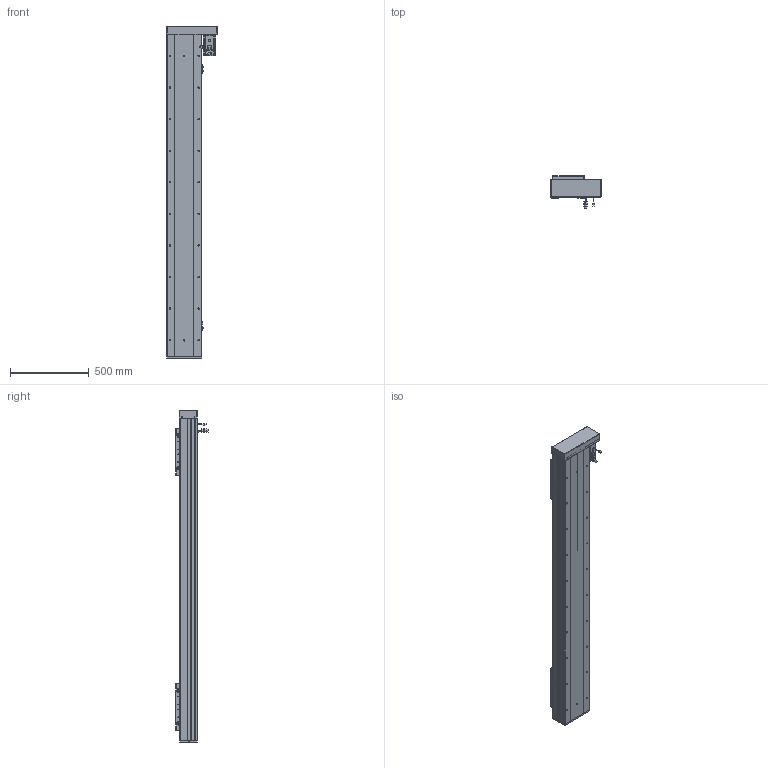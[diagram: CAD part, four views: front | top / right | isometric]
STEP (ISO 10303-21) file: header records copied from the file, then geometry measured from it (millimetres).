
FILE_DESCRIPTION (( 'STEP AP203' ), '1' );
FILE_NAME ('RY220F-L2525-800-RK-邧嶺.SLDASM_1600.step', '2022-08-06T08:19:41', ( '' ), ( '' ), 'SwSTEP 2.0', 'SolidWorks 2016', '' );
FILE_SCHEMA (( 'CONFIG_CONTROL_DESIGN' ));
Length unit declared in the file: millimetre
Products named in the file (15): RY220F-蛌殏奻裔啣-800_1600; RY220F-L2525-800-RK-邧嶺.SLDASM_1600; 覜茼ん672; 怢湛750W_ECMA-CX0807ES; RY220F-祥凄詩湍-蛌殏-800_1600; RY220F-672覜茼んえ; RY220F-滅鳥奻裔; RY220左右折电机安装板; 滅袉蝶18-24; RY220酘衵殏萇儂欶; RY220F-詩湍揤踡輸; RY220F臏賑釱25-32佪裝; 侐源滅袉蝶; RY220F蛌殏菁釱-800-邧嶺_1600; RY220F綴裔啣
Assembly tree (24 placements, depth 2):
  RY220F-L2525-800-RK-邧嶺.SLDASM_1600
    RY220F蛌殏菁釱-800-邧嶺_1600
    RY220F-蛌殏奻裔啣-800_1600  x2
    怢湛750W_ECMA-CX0807ES
    RY220F臏賑釱25-32佪裝  x2
    RY220F-滅鳥奻裔  x2
    滅袉蝶18-24  x3
    RY220F綴裔啣
    RY220F-祥凄詩湍-蛌殏-800_1600
    RY220F-詩湍揤踡輸  x2
    覜茼ん672  x3
    RY220F-672覜茼んえ  x2
    RY220左右折电机安装板
    RY220酘衵殏萇儂欶
    侐源滅袉蝶  x2
Bounding box: 317.5 x 205.27 x 2103 mm (x, y, z)
Volume: 18589177.1 mm3; surface area: 4929984.3 mm2
Topology: 25 solids, 25 shells, 2844 faces, 7724 edges, 4762 vertices
Faces by surface type: cylinder 1290, plane 1044, cone 439, bspline 45, sphere 16, torus 10
Entity records: 70752 total; most frequent: CARTESIAN_POINT 18983, ORIENTED_EDGE 10430, DIRECTION 10228, EDGE_CURVE 5215, AXIS2_PLACEMENT_3D 3658, VERTEX_POINT 3378, LINE 2912, VECTOR 2912
